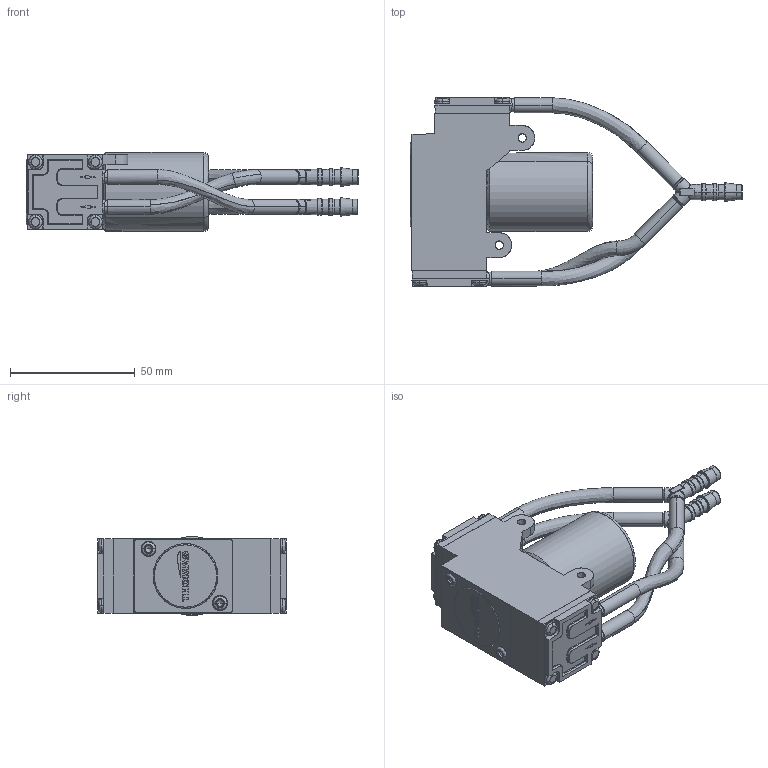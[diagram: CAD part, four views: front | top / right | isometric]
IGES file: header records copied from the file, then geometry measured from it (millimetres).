
Start section: SolidWorks IGES file using analytic representation for surfaces
Global section: file name: Q:\2016\03 Nautilus\41 6410 Shell Creation\Fertige Hüllen\01 an Marketing übergeben\14200505\14200505-18.IGS; native system: SolidWorks 2017; preprocessor: SolidWorks 2017; author: hxs2830; date: 181205.125450; units: inch
Bounding box: 133.15 x 75.8 x 31.7 mm (x, y, z)
Surface area: 25178.2 mm2 (no closed solid volume)
Topology: 0 solids, 0 shells, 1023 faces, 8715 edges, 8711 vertices
Faces by surface type: bspline 808, revolution 215
